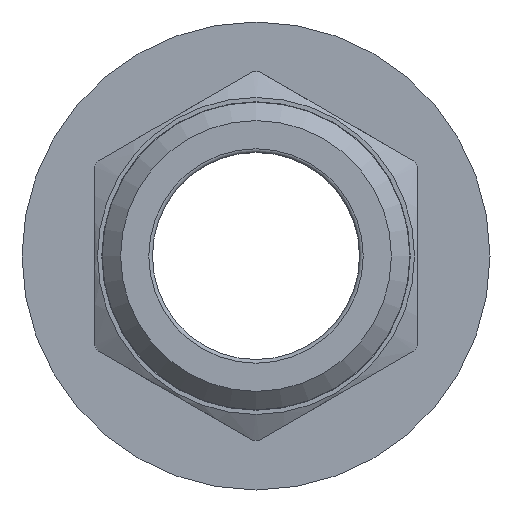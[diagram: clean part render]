
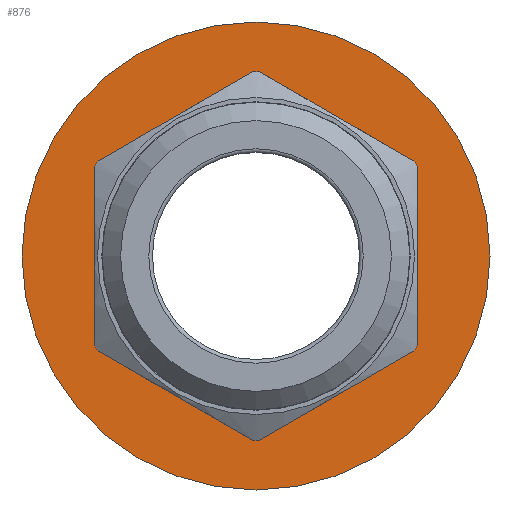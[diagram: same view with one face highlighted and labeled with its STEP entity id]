
A CAD part, front view. The second image highlights one B-rep face of the part: STEP entity #876.
In plain terms, the highlighted planar face has unit normal (0, -1, 0).
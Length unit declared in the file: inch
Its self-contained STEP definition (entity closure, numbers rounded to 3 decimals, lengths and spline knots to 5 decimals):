
#146=FACE_BOUND('',#251,.T.);
#165=PLANE('',#986);
#197=FACE_OUTER_BOUND('',#250,.T.);
#250=EDGE_LOOP('',(#716,#717));
#251=EDGE_LOOP('',(#718,#719));
#317=CIRCLE('',#987,0.635);
#318=CIRCLE('',#988,0.635);
#319=CIRCLE('',#989,0.425);
#320=CIRCLE('',#990,0.425);
#411=VERTEX_POINT('',#1530);
#412=VERTEX_POINT('',#1531);
#413=VERTEX_POINT('',#1534);
#414=VERTEX_POINT('',#1535);
#524=EDGE_CURVE('',#411,#412,#317,.T.);
#525=EDGE_CURVE('',#412,#411,#318,.T.);
#526=EDGE_CURVE('',#413,#414,#319,.T.);
#527=EDGE_CURVE('',#414,#413,#320,.T.);
#716=ORIENTED_EDGE('',*,*,#524,.T.);
#717=ORIENTED_EDGE('',*,*,#525,.T.);
#718=ORIENTED_EDGE('',*,*,#526,.F.);
#719=ORIENTED_EDGE('',*,*,#527,.F.);
#876=ADVANCED_FACE('',(#197,#146),#165,.T.);
#986=AXIS2_PLACEMENT_3D('',#1529,#1199,#1200);
#987=AXIS2_PLACEMENT_3D('',#1532,#1201,#1202);
#988=AXIS2_PLACEMENT_3D('',#1533,#1203,#1204);
#989=AXIS2_PLACEMENT_3D('',#1536,#1205,#1206);
#990=AXIS2_PLACEMENT_3D('',#1537,#1207,#1208);
#1199=DIRECTION('center_axis',(0.,-1.,0.));
#1200=DIRECTION('ref_axis',(0.,0.,-1.));
#1201=DIRECTION('center_axis',(0.,-1.,0.));
#1202=DIRECTION('ref_axis',(1.,0.,0.));
#1203=DIRECTION('center_axis',(0.,-1.,0.));
#1204=DIRECTION('ref_axis',(1.,0.,0.));
#1205=DIRECTION('center_axis',(0.,-1.,0.));
#1206=DIRECTION('ref_axis',(1.,0.,0.));
#1207=DIRECTION('center_axis',(0.,-1.,0.));
#1208=DIRECTION('ref_axis',(1.,0.,0.));
#1529=CARTESIAN_POINT('Origin',(0.,0.,-0.425));
#1530=CARTESIAN_POINT('',(0.,0.,-0.635));
#1531=CARTESIAN_POINT('',(0.,0.,0.635));
#1532=CARTESIAN_POINT('Origin',(0.,0.,0.));
#1533=CARTESIAN_POINT('Origin',(0.,0.,0.));
#1534=CARTESIAN_POINT('',(0.,0.,-0.425));
#1535=CARTESIAN_POINT('',(0.,0.,0.425));
#1536=CARTESIAN_POINT('Origin',(0.,0.,0.));
#1537=CARTESIAN_POINT('Origin',(0.,0.,0.));
